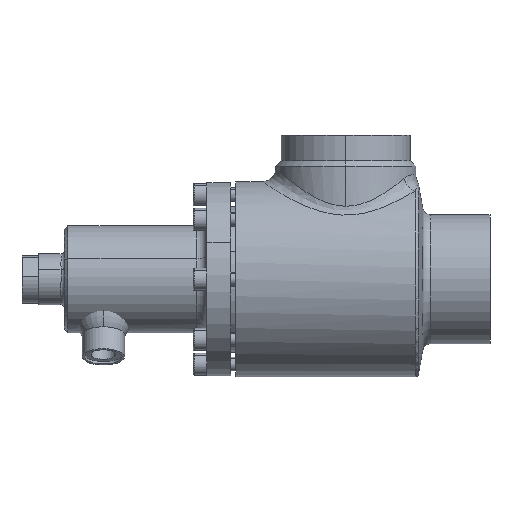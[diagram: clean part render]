
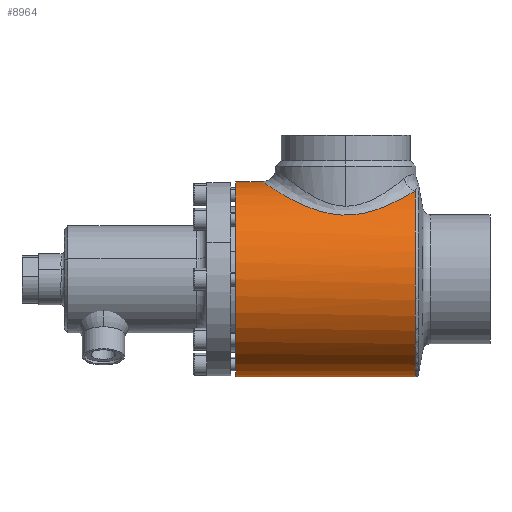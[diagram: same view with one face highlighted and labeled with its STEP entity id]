
A CAD part, left-side view. The second image highlights one B-rep face of the part: STEP entity #8964.
In plain terms, the highlighted cylindrical face has radius 57.5 mm (diameter 115 mm), a partial arc.
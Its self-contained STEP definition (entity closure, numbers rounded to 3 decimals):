
#4873 = EDGE_CURVE ( 'NONE', #5996, #13321, #15443, .T. ) ;
#5219 = ORIENTED_EDGE ( 'NONE', *, *, #4873, .F. ) ;
#5711 = ORIENTED_EDGE ( 'NONE', *, *, #12470, .T. ) ;
#5996 = VERTEX_POINT ( 'NONE', #12473 ) ;
#6204 = EDGE_CURVE ( 'NONE', #9176, #5996, #12717, .T. ) ;
#6205 = EDGE_CURVE ( 'NONE', #7063, #12253, #12722, .T. ) ;
#6561 = ORIENTED_EDGE ( 'NONE', *, *, #6205, .T. ) ;
#7063 = VERTEX_POINT ( 'NONE', #13756 ) ;
#7270 = EDGE_CURVE ( 'NONE', #9176, #7063, #13974, .T. ) ;
#7592 = ORIENTED_EDGE ( 'NONE', *, *, #7270, .T. ) ;
#8133 = ORIENTED_EDGE ( 'NONE', *, *, #6204, .F. ) ;
#8775 = EDGE_LOOP ( 'NONE', ( #8133, #7592, #6561, #5711, #5219 ) ) ;
#8964 = ADVANCED_FACE ( 'NONE', ( #9218 ), #9219, .T. ) ;
#9176 = VERTEX_POINT ( 'NONE', #13484 ) ;
#9218 = FACE_OUTER_BOUND ( 'NONE', #8775, .T. ) ;
#9219 = CYLINDRICAL_SURFACE ( 'NONE', #9220, 57.5 ) ;
#9220 = AXIS2_PLACEMENT_3D ( 'NONE', #9221, #9222, #9223 ) ;
#9221 = CARTESIAN_POINT ( 'NONE',  ( 0., -111., 0. ) ) ;
#9222 = DIRECTION ( 'NONE',  ( 0., 1., 0. ) ) ;
#9223 = DIRECTION ( 'NONE',  ( 0., 0., 1. ) ) ;
#12057 = CARTESIAN_POINT ( 'NONE',  ( 0., -15.7, 57.5 ) ) ;
#12253 = VERTEX_POINT ( 'NONE', #12057 ) ;
#12278 = LINE ( 'NONE', #12279, #12280 ) ;
#12279 = CARTESIAN_POINT ( 'NONE',  ( 0., -111., 57.5 ) ) ;
#12280 = VECTOR ( 'NONE', #12281, 1000. ) ;
#12281 = DIRECTION ( 'NONE',  ( 0., 1., 0. ) ) ;
#12470 = EDGE_CURVE ( 'NONE', #12253, #13321, #12278, .T. ) ;
#12473 = CARTESIAN_POINT ( 'NONE',  ( 0., 0., -57.5 ) ) ;
#12717 = LINE ( 'NONE', #12718, #12719 ) ;
#12718 = CARTESIAN_POINT ( 'NONE',  ( 0., -111., -57.5 ) ) ;
#12719 = VECTOR ( 'NONE', #12721, 1000. ) ;
#12721 = DIRECTION ( 'NONE',  ( 0., 1., 0. ) ) ;
#12722 = B_SPLINE_CURVE_WITH_KNOTS ( 'NONE', 3,
 ( #12723, #12724, #12725, #12726, #12727, #12728, #12729, #12730, #12731, #12732, #12733, #12734, #12735, #12736, #12738, #12739, #12740, #12741, #12742, #12743, #12744, #12745, #12746, #12747, #12748, #12749, #12750, #12751, #12752, #12753, #12757, #12758, #12759, #12760, #12761, #12762, #12763, #12764, #12765, #12766, #12767, #12768, #12769, #12770, #12771, #12772, #12776, #12777, #12778, #12779, #12780, #12781, #12782, #12783, #12784, #12785, #12786, #12787, #12788, #12789, #12790, #12791 ),
 .UNSPECIFIED., .F., .F.,
 ( 4, 2, 2, 2, 2, 2, 2, 2, 2, 2, 2, 2, 2, 2, 2, 2, 2, 2, 2, 2, 2, 2, 2, 2, 2, 2, 2, 2, 2, 2, 4 ),
 ( 0., 0.008, 0.016, 0.017, 0.019, 0.023, 0.031, 0.035, 0.039, 0.047, 0.049, 0.05, 0.054, 0.058, 0.06, 0.062, 0.07, 0.074, 0.078, 0.085, 0.089, 0.091, 0.093, 0.101, 0.105, 0.107, 0.109, 0.116, 0.118, 0.12, 0.124 ),
 .UNSPECIFIED. ) ;
#12723 = CARTESIAN_POINT ( 'NONE',  ( -24.174, -105.892, 52.171 ) ) ;
#12724 = CARTESIAN_POINT ( 'NONE',  ( -26.132, -104.39, 51.264 ) ) ;
#12725 = CARTESIAN_POINT ( 'NONE',  ( -27.915, -102.76, 50.305 ) ) ;
#12726 = CARTESIAN_POINT ( 'NONE',  ( -31.195, -99.268, 48.34 ) ) ;
#12727 = CARTESIAN_POINT ( 'NONE',  ( -32.691, -97.405, 47.333 ) ) ;
#12728 = CARTESIAN_POINT ( 'NONE',  ( -34.397, -94.927, 46.079 ) ) ;
#12729 = CARTESIAN_POINT ( 'NONE',  ( -34.73, -94.424, 45.829 ) ) ;
#12730 = CARTESIAN_POINT ( 'NONE',  ( -35.379, -93.402, 45.329 ) ) ;
#12731 = CARTESIAN_POINT ( 'NONE',  ( -35.695, -92.884, 45.08 ) ) ;
#12732 = CARTESIAN_POINT ( 'NONE',  ( -36.613, -91.317, 44.344 ) ) ;
#12733 = CARTESIAN_POINT ( 'NONE',  ( -37.186, -90.253, 43.863 ) ) ;
#12734 = CARTESIAN_POINT ( 'NONE',  ( -38.793, -86.998, 42.466 ) ) ;
#12735 = CARTESIAN_POINT ( 'NONE',  ( -39.716, -84.747, 41.594 ) ) ;
#12736 = CARTESIAN_POINT ( 'NONE',  ( -40.882, -81.225, 40.437 ) ) ;
#12738 = CARTESIAN_POINT ( 'NONE',  ( -41.234, -80.027, 40.077 ) ) ;
#12739 = CARTESIAN_POINT ( 'NONE',  ( -41.862, -77.576, 39.421 ) ) ;
#12740 = CARTESIAN_POINT ( 'NONE',  ( -42.138, -76.319, 39.125 ) ) ;
#12741 = CARTESIAN_POINT ( 'NONE',  ( -42.831, -72.529, 38.37 ) ) ;
#12742 = CARTESIAN_POINT ( 'NONE',  ( -43.12, -69.961, 38.038 ) ) ;
#12743 = CARTESIAN_POINT ( 'NONE',  ( -43.257, -66.692, 37.883 ) ) ;
#12744 = CARTESIAN_POINT ( 'NONE',  ( -43.273, -66.034, 37.864 ) ) ;
#12745 = CARTESIAN_POINT ( 'NONE',  ( -43.282, -64.718, 37.854 ) ) ;
#12746 = CARTESIAN_POINT ( 'NONE',  ( -43.275, -64.063, 37.862 ) ) ;
#12747 = CARTESIAN_POINT ( 'NONE',  ( -43.219, -62.103, 37.926 ) ) ;
#12748 = CARTESIAN_POINT ( 'NONE',  ( -43.137, -60.806, 38.02 ) ) ;
#12749 = CARTESIAN_POINT ( 'NONE',  ( -42.884, -58.229, 38.305 ) ) ;
#12750 = CARTESIAN_POINT ( 'NONE',  ( -42.713, -56.95, 38.496 ) ) ;
#12751 = CARTESIAN_POINT ( 'NONE',  ( -42.391, -55.043, 38.85 ) ) ;
#12752 = CARTESIAN_POINT ( 'NONE',  ( -42.272, -54.408, 38.979 ) ) ;
#12753 = CARTESIAN_POINT ( 'NONE',  ( -42.014, -53.15, 39.257 ) ) ;
#12757 = CARTESIAN_POINT ( 'NONE',  ( -41.875, -52.528, 39.406 ) ) ;
#12758 = CARTESIAN_POINT ( 'NONE',  ( -41.13, -49.446, 40.191 ) ) ;
#12759 = CARTESIAN_POINT ( 'NONE',  ( -40.378, -47.077, 40.957 ) ) ;
#12760 = CARTESIAN_POINT ( 'NONE',  ( -39.022, -43.642, 42.237 ) ) ;
#12761 = CARTESIAN_POINT ( 'NONE',  ( -38.532, -42.517, 42.685 ) ) ;
#12762 = CARTESIAN_POINT ( 'NONE',  ( -37.473, -40.304, 43.618 ) ) ;
#12763 = CARTESIAN_POINT ( 'NONE',  ( -36.908, -39.223, 44.098 ) ) ;
#12764 = CARTESIAN_POINT ( 'NONE',  ( -35.115, -36.073, 45.559 ) ) ;
#12765 = CARTESIAN_POINT ( 'NONE',  ( -33.785, -34.085, 46.562 ) ) ;
#12766 = CARTESIAN_POINT ( 'NONE',  ( -31.574, -31.259, 48.064 ) ) ;
#12767 = CARTESIAN_POINT ( 'NONE',  ( -30.801, -30.343, 48.564 ) ) ;
#12768 = CARTESIAN_POINT ( 'NONE',  ( -29.582, -29.009, 49.309 ) ) ;
#12769 = CARTESIAN_POINT ( 'NONE',  ( -29.166, -28.57, 49.557 ) ) ;
#12770 = CARTESIAN_POINT ( 'NONE',  ( -28.313, -27.708, 50.049 ) ) ;
#12771 = CARTESIAN_POINT ( 'NONE',  ( -27.875, -27.282, 50.294 ) ) ;
#12772 = CARTESIAN_POINT ( 'NONE',  ( -25.646, -25.201, 51.504 ) ) ;
#12776 = CARTESIAN_POINT ( 'NONE',  ( -23.737, -23.688, 52.419 ) ) ;
#12777 = CARTESIAN_POINT ( 'NONE',  ( -20.66, -21.659, 53.671 ) ) ;
#12778 = CARTESIAN_POINT ( 'NONE',  ( -19.599, -21.023, 54.069 ) ) ;
#12779 = CARTESIAN_POINT ( 'NONE',  ( -17.948, -20.134, 54.63 ) ) ;
#12780 = CARTESIAN_POINT ( 'NONE',  ( -17.388, -19.848, 54.811 ) ) ;
#12781 = CARTESIAN_POINT ( 'NONE',  ( -16.247, -19.3, 55.16 ) ) ;
#12782 = CARTESIAN_POINT ( 'NONE',  ( -15.665, -19.037, 55.328 ) ) ;
#12783 = CARTESIAN_POINT ( 'NONE',  ( -12.734, -17.796, 56.125 ) ) ;
#12784 = CARTESIAN_POINT ( 'NONE',  ( -10.302, -17.028, 56.627 ) ) ;
#12785 = CARTESIAN_POINT ( 'NONE',  ( -7.142, -16.371, 57.058 ) ) ;
#12786 = CARTESIAN_POINT ( 'NONE',  ( -6.505, -16.254, 57.135 ) ) ;
#12787 = CARTESIAN_POINT ( 'NONE',  ( -5.216, -16.054, 57.267 ) ) ;
#12788 = CARTESIAN_POINT ( 'NONE',  ( -4.563, -15.969, 57.322 ) ) ;
#12789 = CARTESIAN_POINT ( 'NONE',  ( -2.602, -15.766, 57.456 ) ) ;
#12790 = CARTESIAN_POINT ( 'NONE',  ( -1.298, -15.7, 57.5 ) ) ;
#12791 = CARTESIAN_POINT ( 'NONE',  ( 0., -15.7, 57.5 ) ) ;
#13321 = VERTEX_POINT ( 'NONE', #13385 ) ;
#13385 = CARTESIAN_POINT ( 'NONE',  ( 0., 0., 57.5 ) ) ;
#13484 = CARTESIAN_POINT ( 'NONE',  ( 0., -105.892, -57.5 ) ) ;
#13756 = CARTESIAN_POINT ( 'NONE',  ( -24.174, -105.892, 52.171 ) ) ;
#13974 = CIRCLE ( 'NONE', #13975, 57.5 ) ;
#13975 = AXIS2_PLACEMENT_3D ( 'NONE', #13976, #13977, #13978 ) ;
#13976 = CARTESIAN_POINT ( 'NONE',  ( 0., -105.892, 0. ) ) ;
#13977 = DIRECTION ( 'NONE',  ( 0., 1., 0. ) ) ;
#13978 = DIRECTION ( 'NONE',  ( 0., 0., -1. ) ) ;
#15443 = CIRCLE ( 'NONE', #15444, 57.5 ) ;
#15444 = AXIS2_PLACEMENT_3D ( 'NONE', #15445, #15446, #15447 ) ;
#15445 = CARTESIAN_POINT ( 'NONE',  ( 0., 0., 0. ) ) ;
#15446 = DIRECTION ( 'NONE',  ( 0., 1., 0. ) ) ;
#15447 = DIRECTION ( 'NONE',  ( 0., 0., 1. ) ) ;
